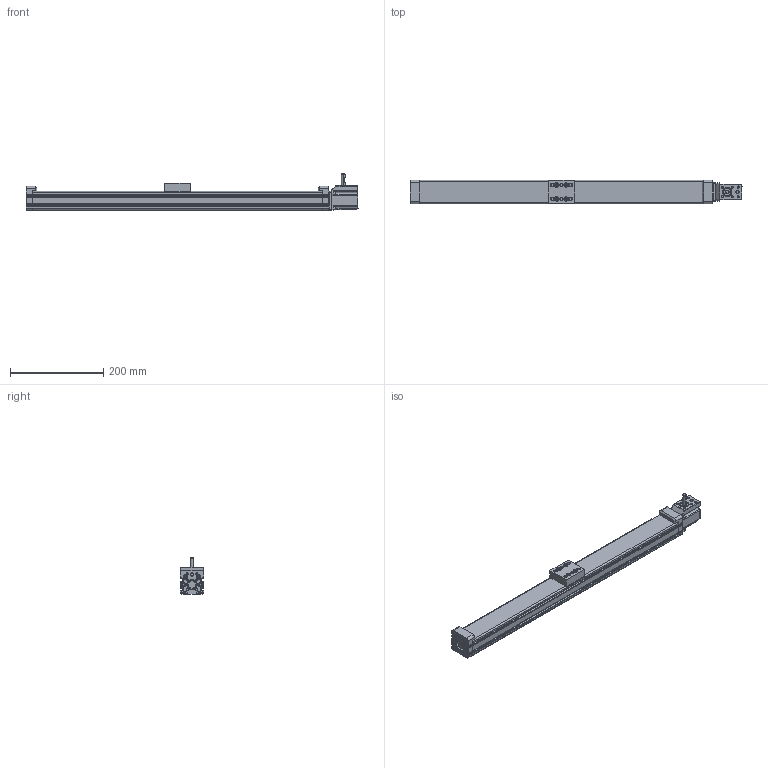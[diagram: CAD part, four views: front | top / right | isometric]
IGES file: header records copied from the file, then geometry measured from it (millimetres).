
Start section: SolidWorks IGES file using analytic representation for surfaces
Global section: file name: X:\12_SW2021-Inv2021\99_MAU-MAG新製品\データ\MAG5040SS-550L\mag5040ss-550l.IGS; native system: SolidWorks 2021; preprocessor: SolidWorks 2021; author: ImaoCorp; date: 230412.154647; units: millimetre
Bounding box: 713.5 x 50 x 77.5 mm (x, y, z)
Surface area: 236424.5 mm2 (no closed solid volume)
Topology: 0 solids, 0 shells, 1318 faces, 14715 edges, 14709 vertices
Faces by surface type: revolution 686, bspline 632
